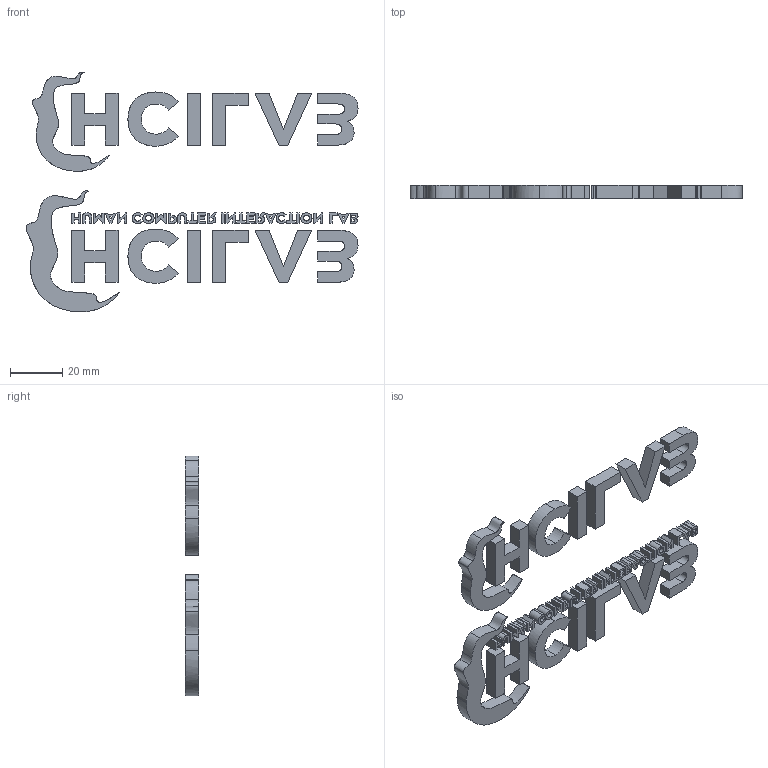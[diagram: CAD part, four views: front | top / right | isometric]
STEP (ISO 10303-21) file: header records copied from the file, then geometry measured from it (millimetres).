
FILE_DESCRIPTION(/* description */ (''),/* implementation_level */ '2;1');
FILE_NAME(/* name */ 'C:/Users/AZ/Desktop/SVG/HCILAB Logo v6.step',/* time_stamp */ '2022-03-21T19:09:07+02:00',/* author */ (''),/* organization */ (''),/* preprocessor_version */ 'ST-DEVELOPER v18.1',/* originating_system */ 'Autodesk Translation Framework v10.13.0.1454',/* authorisation */ '');
FILE_SCHEMA (('AUTOMOTIVE_DESIGN { 1 0 10303 214 3 1 1 }'));
Length unit declared in the file: millimetre
Products named in the file (1): HCILAB Logo
Bounding box: 127.14 x 5 x 91.81 mm (x, y, z)
Volume: 15527.9 mm3; surface area: 15364 mm2
Topology: 41 solids, 41 shells, 500 faces, 1254 edges, 836 vertices
Faces by surface type: plane 380, bspline 98, cylinder 22
Entity records: 15055 total; most frequent: CARTESIAN_POINT 3895, ORIENTED_EDGE 2508, DIRECTION 1908, EDGE_CURVE 1254, LINE 1014, VECTOR 1014, VERTEX_POINT 836, EDGE_LOOP 520
